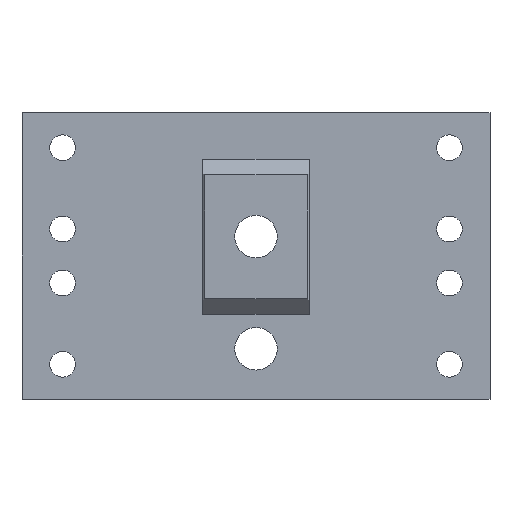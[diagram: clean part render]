
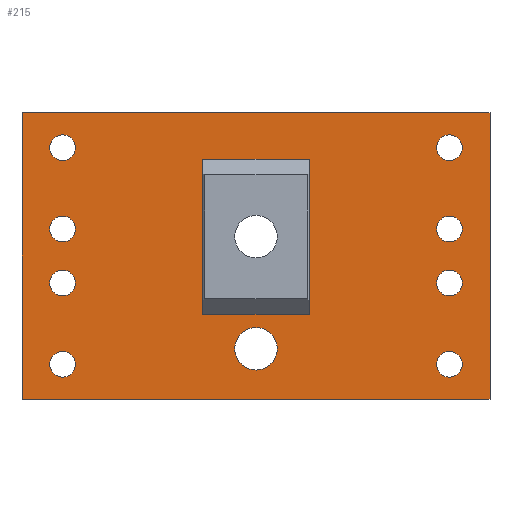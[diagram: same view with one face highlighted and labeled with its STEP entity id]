
A CAD part, front view. The second image highlights one B-rep face of the part: STEP entity #215.
In plain terms, the highlighted planar face has unit normal (0, -1, 0).
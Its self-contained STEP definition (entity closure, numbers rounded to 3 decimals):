
#215=ADVANCED_FACE('',(#630,#632,#634,#636,#638,#640,#642,#644,#646,#648,#650),#652,
.F.);
#630=FACE_BOUND('',#631,.T.);
#631=EDGE_LOOP('',(#982,#983,#984,#985));
#632=FACE_BOUND('',#633,.T.);
#633=EDGE_LOOP('',(#986));
#634=FACE_BOUND('',#635,.T.);
#635=EDGE_LOOP('',(#987));
#636=FACE_BOUND('',#637,.T.);
#637=EDGE_LOOP('',(#988));
#638=FACE_BOUND('',#639,.T.);
#639=EDGE_LOOP('',(#989));
#640=FACE_BOUND('',#641,.T.);
#641=EDGE_LOOP('',(#990));
#642=FACE_BOUND('',#643,.T.);
#643=EDGE_LOOP('',(#991,#992,#993,#994));
#644=FACE_BOUND('',#645,.T.);
#645=EDGE_LOOP('',(#995));
#646=FACE_BOUND('',#647,.T.);
#647=EDGE_LOOP('',(#996));
#648=FACE_BOUND('',#649,.T.);
#649=EDGE_LOOP('',(#997));
#650=FACE_BOUND('',#651,.T.);
#651=EDGE_LOOP('',(#998));
#652=PLANE('',#653);
#653=AXIS2_PLACEMENT_3D('',#654,#655,#656);
#654=CARTESIAN_POINT('',(60.5,-5.,-35.));
#655=DIRECTION('',(0.,1.,0.));
#656=DIRECTION('',(-1.,0.,0.));
#982=ORIENTED_EDGE('',*,*,#1141,.F.);
#983=ORIENTED_EDGE('',*,*,#1114,.T.);
#984=ORIENTED_EDGE('',*,*,#1142,.F.);
#985=ORIENTED_EDGE('',*,*,#1107,.T.);
#986=ORIENTED_EDGE('',*,*,#1143,.T.);
#987=ORIENTED_EDGE('',*,*,#1144,.T.);
#988=ORIENTED_EDGE('',*,*,#1145,.T.);
#989=ORIENTED_EDGE('',*,*,#1146,.T.);
#990=ORIENTED_EDGE('',*,*,#1147,.T.);
#991=ORIENTED_EDGE('',*,*,#1148,.F.);
#992=ORIENTED_EDGE('',*,*,#1149,.T.);
#993=ORIENTED_EDGE('',*,*,#1150,.T.);
#994=ORIENTED_EDGE('',*,*,#1151,.F.);
#995=ORIENTED_EDGE('',*,*,#1152,.T.);
#996=ORIENTED_EDGE('',*,*,#1153,.T.);
#997=ORIENTED_EDGE('',*,*,#1154,.T.);
#998=ORIENTED_EDGE('',*,*,#1155,.T.);
#1107=EDGE_CURVE('',#1225,#1223,#1226,.T.);
#1114=EDGE_CURVE('',#1236,#1234,#1237,.T.);
#1141=EDGE_CURVE('',#1236,#1223,#1281,.F.);
#1142=EDGE_CURVE('',#1225,#1234,#1282,.F.);
#1143=EDGE_CURVE('',#1283,#1283,#1284,.F.);
#1144=EDGE_CURVE('',#1285,#1285,#1286,.F.);
#1145=EDGE_CURVE('',#1287,#1287,#1288,.T.);
#1146=EDGE_CURVE('',#1289,#1289,#1290,.T.);
#1147=EDGE_CURVE('',#1291,#1291,#1292,.T.);
#1148=EDGE_CURVE('',#1293,#1294,#1295,.T.);
#1149=EDGE_CURVE('',#1293,#1296,#1297,.T.);
#1150=EDGE_CURVE('',#1296,#1298,#1299,.T.);
#1151=EDGE_CURVE('',#1294,#1298,#1300,.T.);
#1152=EDGE_CURVE('',#1301,#1301,#1302,.T.);
#1153=EDGE_CURVE('',#1303,#1303,#1304,.T.);
#1154=EDGE_CURVE('',#1305,#1305,#1306,.F.);
#1155=EDGE_CURVE('',#1307,#1307,#1308,.F.);
#1223=VERTEX_POINT('',#1439);
#1225=VERTEX_POINT('',#1443);
#1226=LINE('',#1444,#1445);
#1234=VERTEX_POINT('',#1464);
#1236=VERTEX_POINT('',#1468);
#1237=LINE('',#1469,#1470);
#1281=LINE('',#1577,#1578);
#1282=LINE('',#1580,#1581);
#1283=VERTEX_POINT('',#1583);
#1284=CIRCLE('',#1584,3.323);
#1285=VERTEX_POINT('',#1588);
#1286=CIRCLE('',#1589,3.323);
#1287=VERTEX_POINT('',#1593);
#1288=CIRCLE('',#1594,3.323);
#1289=VERTEX_POINT('',#1598);
#1290=CIRCLE('',#1599,3.323);
#1291=VERTEX_POINT('',#1603);
#1292=CIRCLE('',#1604,5.5);
#1293=VERTEX_POINT('',#1608);
#1294=VERTEX_POINT('',#1609);
#1295=LINE('',#1610,#1611);
#1296=VERTEX_POINT('',#1613);
#1297=LINE('',#1614,#1615);
#1298=VERTEX_POINT('',#1617);
#1299=LINE('',#1618,#1619);
#1300=LINE('',#1621,#1622);
#1301=VERTEX_POINT('',#1624);
#1302=CIRCLE('',#1625,3.323);
#1303=VERTEX_POINT('',#1629);
#1304=CIRCLE('',#1630,3.323);
#1305=VERTEX_POINT('',#1634);
#1306=CIRCLE('',#1635,3.323);
#1307=VERTEX_POINT('',#1639);
#1308=CIRCLE('',#1640,3.323);
#1439=CARTESIAN_POINT('',(60.5,-5.,-37.));
#1443=CARTESIAN_POINT('',(-60.5,-5.,-37.));
#1444=CARTESIAN_POINT('',(-60.5,-5.,-37.));
#1445=VECTOR('',#1446,1.);
#1446=DIRECTION('',(1.,0.,0.));
#1464=CARTESIAN_POINT('',(-60.5,-5.,37.));
#1468=CARTESIAN_POINT('',(60.5,-5.,37.));
#1469=CARTESIAN_POINT('',(60.5,-5.,37.));
#1470=VECTOR('',#1471,1.);
#1471=DIRECTION('',(-1.,0.,0.));
#1577=CARTESIAN_POINT('',(60.5,-5.,-37.));
#1578=VECTOR('',#1579,1.);
#1579=DIRECTION('',(0.,0.,1.));
#1580=CARTESIAN_POINT('',(-60.5,-5.,37.));
#1581=VECTOR('',#1582,1.);
#1582=DIRECTION('',(0.,0.,-1.));
#1583=CARTESIAN_POINT('',(46.677,-5.,-28.));
#1584=AXIS2_PLACEMENT_3D('',#1585,#1586,#1587);
#1585=CARTESIAN_POINT('',(50.,-5.,-28.));
#1586=DIRECTION('',(0.,-1.,0.));
#1587=DIRECTION('',(-1.,0.,0.));
#1588=CARTESIAN_POINT('',(46.677,-5.,7.));
#1589=AXIS2_PLACEMENT_3D('',#1590,#1591,#1592);
#1590=CARTESIAN_POINT('',(50.,-5.,7.));
#1591=DIRECTION('',(0.,-1.,0.));
#1592=DIRECTION('',(-1.,0.,0.));
#1593=CARTESIAN_POINT('',(-46.677,-5.,-28.));
#1594=AXIS2_PLACEMENT_3D('',#1595,#1596,#1597);
#1595=CARTESIAN_POINT('',(-50.,-5.,-28.));
#1596=DIRECTION('',(0.,1.,0.));
#1597=DIRECTION('',(1.,0.,0.));
#1598=CARTESIAN_POINT('',(-46.677,-5.,7.));
#1599=AXIS2_PLACEMENT_3D('',#1600,#1601,#1602);
#1600=CARTESIAN_POINT('',(-50.,-5.,7.));
#1601=DIRECTION('',(0.,1.,0.));
#1602=DIRECTION('',(1.,0.,0.));
#1603=CARTESIAN_POINT('',(5.5,-5.,-24.));
#1604=AXIS2_PLACEMENT_3D('',#1605,#1606,#1607);
#1605=CARTESIAN_POINT('',(0.,-5.,-24.));
#1606=DIRECTION('',(0.,1.,0.));
#1607=DIRECTION('',(1.,0.,0.));
#1608=CARTESIAN_POINT('',(-13.8,-5.,-15.));
#1609=CARTESIAN_POINT('',(13.8,-5.,-15.));
#1610=CARTESIAN_POINT('',(-13.8,-5.,-15.));
#1611=VECTOR('',#1612,1.);
#1612=DIRECTION('',(1.,0.,0.));
#1613=CARTESIAN_POINT('',(-13.8,-5.,25.));
#1614=CARTESIAN_POINT('',(-13.8,-5.,-15.));
#1615=VECTOR('',#1616,1.);
#1616=DIRECTION('',(0.,0.,1.));
#1617=CARTESIAN_POINT('',(13.8,-5.,25.));
#1618=CARTESIAN_POINT('',(-13.8,-5.,25.));
#1619=VECTOR('',#1620,1.);
#1620=DIRECTION('',(1.,0.,0.));
#1621=CARTESIAN_POINT('',(13.8,-5.,-15.));
#1622=VECTOR('',#1623,1.);
#1623=DIRECTION('',(0.,0.,1.));
#1624=CARTESIAN_POINT('',(-46.677,-5.,28.));
#1625=AXIS2_PLACEMENT_3D('',#1626,#1627,#1628);
#1626=CARTESIAN_POINT('',(-50.,-5.,28.));
#1627=DIRECTION('',(0.,1.,0.));
#1628=DIRECTION('',(1.,0.,0.));
#1629=CARTESIAN_POINT('',(-46.677,-5.,-7.));
#1630=AXIS2_PLACEMENT_3D('',#1631,#1632,#1633);
#1631=CARTESIAN_POINT('',(-50.,-5.,-7.));
#1632=DIRECTION('',(0.,1.,0.));
#1633=DIRECTION('',(1.,0.,0.));
#1634=CARTESIAN_POINT('',(46.677,-5.,28.));
#1635=AXIS2_PLACEMENT_3D('',#1636,#1637,#1638);
#1636=CARTESIAN_POINT('',(50.,-5.,28.));
#1637=DIRECTION('',(0.,-1.,0.));
#1638=DIRECTION('',(-1.,0.,0.));
#1639=CARTESIAN_POINT('',(46.677,-5.,-7.));
#1640=AXIS2_PLACEMENT_3D('',#1641,#1642,#1643);
#1641=CARTESIAN_POINT('',(50.,-5.,-7.));
#1642=DIRECTION('',(0.,-1.,0.));
#1643=DIRECTION('',(-1.,0.,0.));
